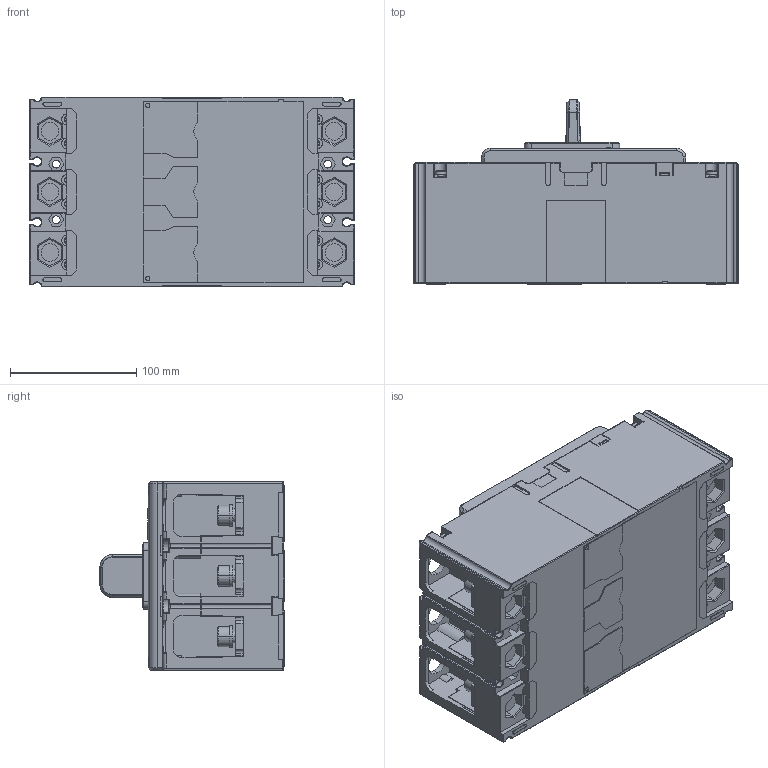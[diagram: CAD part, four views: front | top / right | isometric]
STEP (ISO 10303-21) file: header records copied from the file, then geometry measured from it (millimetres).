
FILE_DESCRIPTION((''),'2;1');
FILE_NAME('CDM6EI-630_3P_ASM','2019-07-18T',('gang.sun'),(''),'PRO/ENGINEER BY PARAMETRIC TECHNOLOGY CORPORATION, 2015440','PRO/ENGINEER BY PARAMETRIC TECHNOLOGY CORPORATION, 2015440','');
FILE_SCHEMA(('CONFIG_CONTROL_DESIGN'));
Products named in the file (12): MSBR-11; MSBR-10; MSBR-9; MSBR-8; MSBR-7; MSBR-6; MSBR-5; MSBR-4; MSBR-3; MSBR-2; MSBR-1; CDM6EI-630_3P_ASM
Assembly tree (11 placements, depth 2):
  CDM6EI-630_3P_ASM
    MSBR-11
    MSBR-10
    MSBR-9
    MSBR-8
    MSBR-7
    MSBR-6
    MSBR-5
    MSBR-4
    MSBR-3
    MSBR-2
    MSBR-1
Bounding box: 257 x 145.9 x 150.1 mm (x, y, z)
Volume: 3496813.6 mm3; surface area: 296699.3 mm2
Topology: 11 solids, 16 shells, 3064 faces, 8275 edges, 5272 vertices
Faces by surface type: plane 1813, cylinder 731, extrusion 158, cone 138, torus 128, sphere 58, bspline 38
Entity records: 101053 total; most frequent: CARTESIAN_POINT 23787, ORIENTED_EDGE 16410, DIRECTION 15606, EDGE_CURVE 8205, VECTOR 5582, LINE 5424, VERTEX_POINT 5272, AXIS2_PLACEMENT_3D 5012
